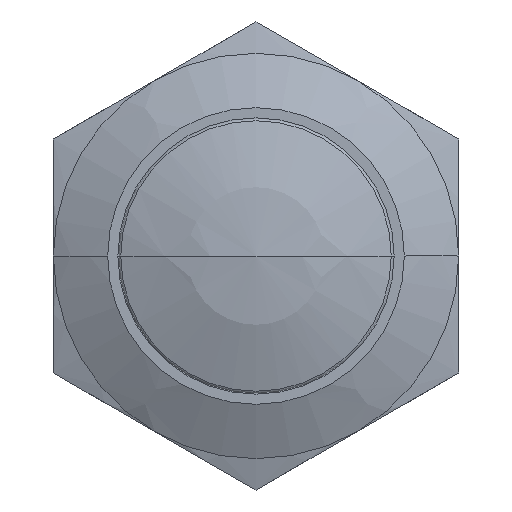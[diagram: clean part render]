
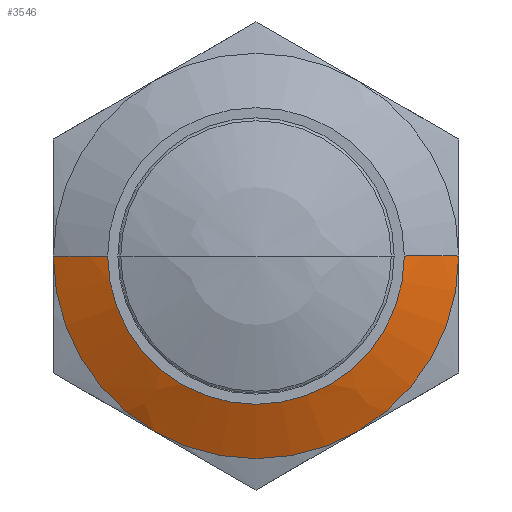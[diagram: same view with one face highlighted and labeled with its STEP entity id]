
A CAD part, left-side view. The second image highlights one B-rep face of the part: STEP entity #3546.
In plain terms, the highlighted free-form (B-spline) face has degree [3, 3] with [4, 4] control points.
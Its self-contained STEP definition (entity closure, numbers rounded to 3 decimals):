
#665=CARTESIAN_POINT('',(-16.21,0.,0.));
#666=DIRECTION('',(1.,0.,0.));
#667=DIRECTION('',(0.,-1.,0.));
#668=AXIS2_PLACEMENT_3D('',#665,#666,#667);
#670=CARTESIAN_POINT('',(3.913,-0.138,
0.));
#671=DIRECTION('',(0.,0.,1.));
#672=DIRECTION('',(-0.875,0.484,0.));
#673=AXIS2_PLACEMENT_3D('',#670,#671,#672);
#675=CARTESIAN_POINT('',(3.913,0.138,
0.));
#676=DIRECTION('',(0.,0.,-1.));
#677=DIRECTION('',(-0.875,-0.484,0.));
#678=AXIS2_PLACEMENT_3D('',#675,#676,#677);
#685=CARTESIAN_POINT('',(-17.58,0.,0.));
#686=DIRECTION('',(1.,0.,0.));
#687=DIRECTION('',(0.,-1.,0.));
#688=AXIS2_PLACEMENT_3D('',#685,#686,#687);
#2498=CARTESIAN_POINT('',(-16.21,-11.,0.));
#2499=VERTEX_POINT('',#2498);
#2500=CARTESIAN_POINT('',(-16.21,11.,0.));
#2501=VERTEX_POINT('',#2500);
#2502=CARTESIAN_POINT('',(-17.58,-8.05,0.));
#2503=VERTEX_POINT('',#2502);
#2504=CARTESIAN_POINT('',(-17.58,8.05,0.));
#2505=VERTEX_POINT('',#2504);
#3520=CARTESIAN_POINT('',(-16.21,11.,0.));
#3521=CARTESIAN_POINT('',(-16.736,10.05,0.));
#3522=CARTESIAN_POINT('',(-17.193,9.065,0.));
#3523=CARTESIAN_POINT('',(-17.58,8.05,0.));
#3524=CARTESIAN_POINT('',(-16.21,11.,-22.));
#3525=CARTESIAN_POINT('',(-16.736,10.05,
-20.1));
#3526=CARTESIAN_POINT('',(-17.193,9.065,
-18.13));
#3527=CARTESIAN_POINT('',(-17.58,8.05,-16.1));
#3528=CARTESIAN_POINT('',(-16.21,-11.,-22.));
#3529=CARTESIAN_POINT('',(-16.736,-10.05,
-20.1));
#3530=CARTESIAN_POINT('',(-17.193,-9.065,
-18.13));
#3531=CARTESIAN_POINT('',(-17.58,-8.05,-16.1));
#3532=CARTESIAN_POINT('',(-16.21,-11.,0.));
#3533=CARTESIAN_POINT('',(-16.736,-10.05,0.));
#3534=CARTESIAN_POINT('',(-17.193,-9.065,0.));
#3535=CARTESIAN_POINT('',(-17.58,-8.05,0.));
#3536=(BOUNDED_SURFACE()B_SPLINE_SURFACE(3,3,((#3520,#3521,#3522,#3523),(#3524,
#3525,#3526,#3527),(#3528,#3529,#3530,#3531),(#3532,#3533,#3534,#3535)),
.UNSPECIFIED.,.F.,.F.,.F.)B_SPLINE_SURFACE_WITH_KNOTS((4,4),(4,4),(0.,1.),(
0.,1.),.UNSPECIFIED.)GEOMETRIC_REPRESENTATION_ITEM()RATIONAL_B_SPLINE_SURFACE(((2.003,1.999,1.999,2.003),(
0.668,0.666,0.666,0.668),(
0.668,0.666,0.666,0.668),(
2.003,1.999,1.999,2.003)))REPRESENTATION_ITEM('')SURFACE());
#3538=ORIENTED_EDGE('',*,*,#3537,.F.);
#3539=ORIENTED_EDGE('',*,*,#3515,.T.);
#3541=ORIENTED_EDGE('',*,*,#3540,.T.);
#3543=ORIENTED_EDGE('',*,*,#3542,.F.);
#3544=EDGE_LOOP('',(#3538,#3539,#3541,#3543));
#3545=FACE_OUTER_BOUND('',#3544,.F.);
#3546=ADVANCED_FACE('',(#3545),#3536,.T.);
#669=CIRCLE('',#668,11.);
#674=CIRCLE('',#673,23.);
#679=CIRCLE('',#678,23.);
#689=CIRCLE('',#688,8.05);
#3515=EDGE_CURVE('',#2499,#2501,#669,.T.);
#3537=EDGE_CURVE('',#2499,#2503,#679,.T.);
#3540=EDGE_CURVE('',#2501,#2505,#674,.T.);
#3542=EDGE_CURVE('',#2503,#2505,#689,.T.);
